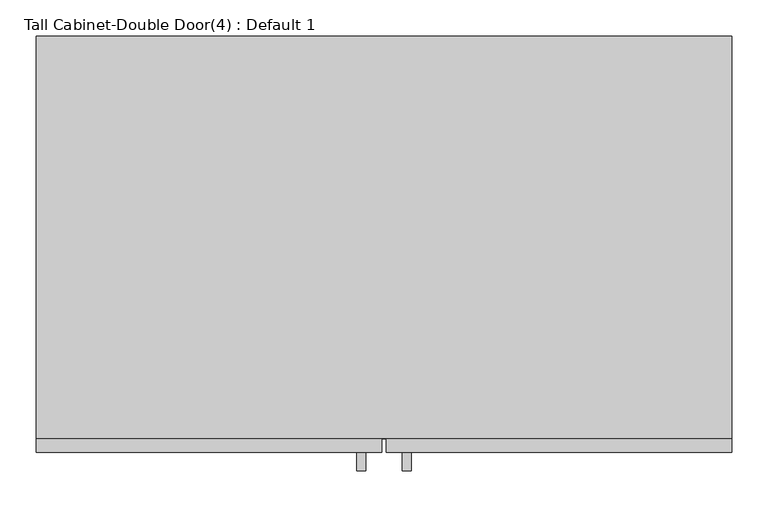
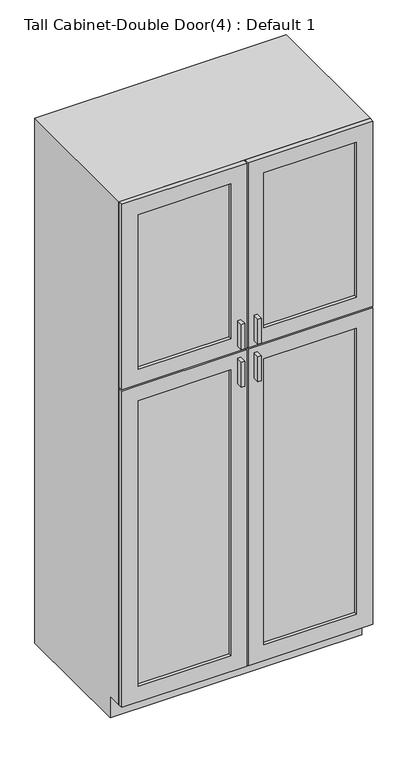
"""IFC4 building model written with IfcOpenShell, lengths in millimetres: furniture geometry, Tall Cabinet-Double Door(4) : Default 1."""

import ifcopenshell
import ifcopenshell.guid

model = None  # the IFC model being written
_history = None  # IfcOwnerHistory: only IFC2X3 demands one
_inside = {}  # id of a spatial element -> (the spatial element, [elements in it])
_under = {}  # id of a project, library or spatial element -> (it, [spatial elements below it])
_declared = {}  # id of a project -> (the project, [libraries it declares])
_typed = {}  # id of a type object -> (the type object, [elements of that type])
_made_of = {}  # id of a material, layer set ... -> (it, [elements and type objects made of it])


def new_model(schema):
    """Start an empty IFC model of exactly this schema.

    Asked for "IFC4X3", IfcOpenShell would pick the latest addendum, in which some entities
    have other attributes; the version numbers below select the first issue.
    IFC2X3 requires an IfcOwnerHistory on every rooted entity: one is made here for all.
    """
    global model, _history
    if schema == "IFC4X3":
        model = ifcopenshell.file(schema_version=(4, 3, 0, 0))
    else:
        model = ifcopenshell.file(schema=schema)
    _inside.clear()
    _under.clear()
    _declared.clear()
    _typed.clear()
    _made_of.clear()
    _history = None
    if model.schema == "IFC2X3":
        org = make("IfcOrganization", Name="unknown")
        user = make(
            "IfcPersonAndOrganization",
            ThePerson=make("IfcPerson", FamilyName="unknown"),
            TheOrganization=org,
        )
        app = make(
            "IfcApplication",
            ApplicationDeveloper=org,
            Version="unknown",
            ApplicationFullName="unknown",
            ApplicationIdentifier="unknown",
        )
        _history = make(
            "IfcOwnerHistory",
            OwningUser=user,
            OwningApplication=app,
            ChangeAction="ADDED",
            CreationDate=0,
        )
    return model


def make(cls, **values):
    """One entity of the class cls with the attributes given. An attribute that is None is left unset."""
    return model.create_entity(
        cls, **{name: value for name, value in values.items() if value is not None}
    )


def rooted(cls, **values):
    """An entity with a GlobalId (a new one), such as an element, a storey or a relation."""
    return make(cls, GlobalId=ifcopenshell.guid.new(), OwnerHistory=_history, **values)


def si_unit(unit_type, name, prefix=None):
    """IfcSIUnit, for example si_unit("LENGTHUNIT", "METRE", prefix="MILLI")."""
    return make("IfcSIUnit", UnitType=unit_type, Prefix=prefix, Name=name)


def assignment(units):
    """IfcUnitAssignment: the units of a project."""
    return None if units is None else make("IfcUnitAssignment", Units=units)


def point(xyz):
    """IfcCartesianPoint."""
    return None if xyz is None else make("IfcCartesianPoint", Coordinates=xyz)


def direction(xyz):
    """IfcDirection."""
    return None if xyz is None else make("IfcDirection", DirectionRatios=xyz)


def frame(location, z_axis=None, x_axis=None):
    """IfcAxis2Placement3D, a coordinate frame: its origin and axes. An axis left out is left unset."""
    return make(
        "IfcAxis2Placement3D",
        Location=point(location),
        Axis=direction(z_axis),
        RefDirection=direction(x_axis),
    )


def origin():
    """The frame at (0, 0, 0) with its axes left unset."""
    return frame((0.0, 0.0, 0.0))


def place(relative_to, where):
    """IfcLocalPlacement: puts the frame where relative to a parent placement (None: the world)."""
    return make(
        "IfcLocalPlacement", PlacementRelTo=relative_to, RelativePlacement=where
    )


def context(
    kind, dimensions, precision=None, world=None, true_north=None, identifier=None
):
    """IfcGeometricRepresentationContext, for example the 3D "Model" context."""
    return make(
        "IfcGeometricRepresentationContext",
        ContextIdentifier=identifier,
        ContextType=kind,
        CoordinateSpaceDimension=dimensions,
        Precision=precision,
        WorldCoordinateSystem=world,
        TrueNorth=true_north,
    )


def project(units=None, contexts=None):
    """IfcProject with its units and contexts."""
    return rooted(
        "IfcProject",
        Name="project",
        RepresentationContexts=contexts,
        UnitsInContext=assignment(units),
    )


def spatial(cls, under=None, at=None, **own):
    """A site, building, storey or space (cls), placed at a placement, below another one or the project."""
    s = rooted(cls, ObjectPlacement=at, **own)
    if under is not None:
        _under.setdefault(under.id(), (under, []))[1].append(s)
    return s


def polyline(points):
    """IfcPolyline through the points."""
    return make("IfcPolyline", Points=[point(p) for p in points])


def outline(outer, holes=None, kind="AREA"):
    """IfcArbitraryClosedProfileDef: a profile drawn as a closed curve; with holes, ...WithVoids."""
    if holes is None:
        return make("IfcArbitraryClosedProfileDef", ProfileType=kind, OuterCurve=outer)
    return make(
        "IfcArbitraryProfileDefWithVoids",
        ProfileType=kind,
        OuterCurve=outer,
        InnerCurves=holes,
    )


def extrude(swept, where, along, depth):
    """IfcExtrudedAreaSolid: the profile swept, set in the frame where, extruded along a direction by depth."""
    return make(
        "IfcExtrudedAreaSolid",
        SweptArea=swept,
        Position=where,
        ExtrudedDirection=direction(along),
        Depth=depth,
    )


def faces_of(points, faces, orient=None, outer=None):
    """IfcFace entities. A face is a list of loops; a loop is a list of indices into points, from 0.

    orient and outer hold one flag for each loop. By default every Orientation is true, the
    first loop of a face is its IfcFaceOuterBound and the others are IfcFaceBound.
    """
    made = []
    for i, loops in enumerate(faces):
        bounds = []
        for j, loop in enumerate(loops):
            is_outer = j == 0 if outer is None else outer[i][j]
            bounds.append(
                make(
                    "IfcFaceOuterBound" if is_outer else "IfcFaceBound",
                    Bound=make("IfcPolyLoop", Polygon=[points[k] for k in loop]),
                    Orientation=True if orient is None else orient[i][j],
                )
            )
        made.append(make("IfcFace", Bounds=bounds))
    return made


def faceted_brep(points, faces, orient=None, outer=None, voids=None):
    """IfcFacetedBrep: a solid bounded by flat faces; with voids (closed shells), ...WithVoids."""
    shared = [point(p) for p in points]
    hull = make("IfcClosedShell", CfsFaces=faces_of(shared, faces, orient, outer))
    if voids is None:
        return make("IfcFacetedBrep", Outer=hull)
    return make(
        "IfcFacetedBrepWithVoids",
        Outer=hull,
        Voids=[
            make(cls, CfsFaces=faces_of(shared, fs, o, b)) for cls, fs, o, b in voids
        ],
    )


def shape(context_of_items, identifier, shape_type, items):
    """IfcShapeRepresentation: the items that make up one representation, for example the "Body"."""
    return make(
        "IfcShapeRepresentation",
        ContextOfItems=context_of_items,
        RepresentationIdentifier=identifier,
        RepresentationType=shape_type,
        Items=items,
    )


def source(mapping_origin, context_of_items, identifier, shape_type, items):
    """IfcRepresentationMap: a shape defined once, which mapped items show again and again."""
    return make(
        "IfcRepresentationMap",
        MappingOrigin=mapping_origin,
        MappedRepresentation=shape(context_of_items, identifier, shape_type, items),
    )


def transform(
    local_origin,
    x_axis=None,
    y_axis=None,
    z_axis=None,
    scale=None,
    scale2=None,
    scale3=None,
    uniform=True,
):
    """IfcCartesianTransformationOperator3D, or its non-uniform kind. x_axis, y_axis, z_axis: its Axis1, 2, 3."""
    if uniform:
        return make(
            "IfcCartesianTransformationOperator3D",
            Axis1=direction(x_axis),
            Axis2=direction(y_axis),
            LocalOrigin=point(local_origin),
            Scale=scale,
            Axis3=direction(z_axis),
        )
    return make(
        "IfcCartesianTransformationOperator3DnonUniform",
        Axis1=direction(x_axis),
        Axis2=direction(y_axis),
        LocalOrigin=point(local_origin),
        Scale=scale,
        Axis3=direction(z_axis),
        Scale2=scale2,
        Scale3=scale3,
    )


def mapped(mapping_source, mapping_target):
    """IfcMappedItem: shows the shape of a source again, moved by a transform."""
    return make(
        "IfcMappedItem", MappingSource=mapping_source, MappingTarget=mapping_target
    )


def made_of(thing, what):
    """Note that an element or type object is made of a material, layer set ...; save() writes the relation."""
    if what is not None:
        _made_of.setdefault(what.id(), (what, []))[1].append(thing)
    return thing


def element(
    cls,
    number,
    at=None,
    inside=None,
    cuts=None,
    type_object=None,
    material=None,
    context=None,
    identifier="Body",
    shape_type=None,
    held_by="IfcProductDefinitionShape",
    body=None,
    shapes=None,
    **own,
):
    """One element of the class cls, such as IfcWall. Its Tag is "e" and its number.

    at: its placement. inside: the storey or other place that contains it. cuts: it is an
    opening in that element (IfcRelVoidsElement). A single representation is given by context,
    identifier, shape_type and body (its items); several are given by shapes. held_by: the class
    of the entity that holds the representations. save() writes the other relations.
    """
    e = rooted(cls, Tag="e%d" % number, ObjectPlacement=at, **own)
    if body is not None:
        shapes = [shape(context, identifier, shape_type, body)]
    if shapes is not None:
        e.Representation = make(held_by, Representations=shapes)
    if inside is not None:
        _inside.setdefault(inside.id(), (inside, []))[1].append(e)
    if cuts is not None:
        rooted(
            "IfcRelVoidsElement", RelatingBuildingElement=cuts, RelatedOpeningElement=e
        )
    if type_object is not None:
        _typed.setdefault(type_object.id(), (type_object, []))[1].append(e)
    return made_of(e, material)


def aggregate(whole, parts):
    """IfcRelAggregates: a whole, such as a stair, and the parts it consists of."""
    return rooted("IfcRelAggregates", RelatingObject=whole, RelatedObjects=parts)


def save(model, path):
    """Write the relations noted so far, then the file.

    IfcRelAggregates (storeys below a building ...), IfcRelContainedInSpatialStructure (elements
    in a storey), IfcRelDefinesByType, IfcRelAssociatesMaterial and IfcRelDeclares: one each for
    every whole, place, type object, material and project.
    """
    for whole, parts in _under.values():
        aggregate(whole, parts)
    for where, things in _inside.values():
        rooted(
            "IfcRelContainedInSpatialStructure",
            RelatedElements=things,
            RelatingStructure=where,
        )
    for kind, things in _typed.values():
        rooted("IfcRelDefinesByType", RelatedObjects=things, RelatingType=kind)
    for what, things in _made_of.values():
        rooted("IfcRelAssociatesMaterial", RelatedObjects=things, RelatingMaterial=what)
    for by, libraries in _declared.values():
        rooted("IfcRelDeclares", RelatingContext=by, RelatedDefinitions=libraries)
    model.write(path)


def tall_cabinet_double_door_4_default_1_8bce80c1(model_context):
    return source(origin(), model_context, "Body", "SolidModel", [
        faceted_brep([(501.3377049, -558.8, 90.4875), (501.3377049, -558.8, 2133.6), (-463.8622951, -558.8, 2133.6), (-463.8622951, -558.8, 90.4875), (482.2877049, -558.8, 2114.55), (482.2877049, -558.8, 109.5375), (-444.8122951, -558.8, 109.5375), (-444.8122951, -558.8, 2114.55), (-463.8622951, 0.0, 2133.6), (501.3377049, 0.0, 2133.6), (501.3377049, 0.0, 1.5875), (-463.8622951, 0.0, 1.5875), (482.2877049, 0.0, 2114.55), (-444.8122951, 0.0, 2114.55), (-444.8122951, 0.0, 109.5375), (482.2877049, 0.0, 109.5375), (501.3377049, -501.65, 90.4875), (501.3377049, -501.65, 1.5875), (-463.8622951, -501.65, 1.5875), (-463.8622951, -501.65, 90.4875)], [[[0, 1, 2, 3], [4, 5, 6, 7]], [[8, 9, 10, 11], [12, 13, 14, 15]], [[1, 0, 16, 17, 10, 9]], [[2, 1, 9, 8]], [[3, 2, 8, 11, 18, 19]], [[0, 3, 19, 16]], [[5, 4, 12, 15]], [[6, 5, 15, 14]], [[7, 6, 14, 13]], [[4, 7, 13, 12]], [[10, 17, 18, 11]], [[18, 17, 16, 19]]]),
        extrude(outline(polyline([(-6.6622951, -603.25), (-19.1945267, -603.25), (-19.1945267, -577.85), (-6.6622951, -577.85), (-6.6622951, -603.25)])), frame((0.0, 0.0, 1403.5480367), z_axis=(0.0, 0.0, 1.0), x_axis=(1.0, 0.0, 0.0)), (0.0, 0.0, 1.0), 101.6),
        extrude(outline(polyline([(56.6699365, -603.25), (44.1377049, -603.25), (44.1377049, -577.85), (56.6699365, -577.85), (56.6699365, -603.25)])), frame((0.0, 0.0, 1403.5480367), z_axis=(0.0, 0.0, 1.0), x_axis=(1.0, 0.0, 0.0)), (0.0, 0.0, 1.0), 101.6),
        extrude(outline(polyline([(-6.6622951, -603.25), (-19.1945267, -603.25), (-19.1945267, -577.85), (-6.6622951, -577.85), (-6.6622951, -603.25)])), frame((0.0, 0.0, 1251.1480367), z_axis=(0.0, 0.0, 1.0), x_axis=(1.0, 0.0, 0.0)), (0.0, 0.0, 1.0), 101.6),
        extrude(outline(polyline([(56.6699365, -603.25), (44.1377049, -603.25), (44.1377049, -577.85), (56.6699365, -577.85), (56.6699365, -603.25)])), frame((0.0, 0.0, 1251.1480367), z_axis=(0.0, 0.0, 1.0), x_axis=(1.0, 0.0, 0.0)), (0.0, 0.0, 1.0), 101.6),
        extrude(outline(polyline([(-44.7622951, -565.15), (-400.3622951, -565.15), (-400.3622951, -558.8), (-44.7622951, -558.8), (-44.7622951, -565.15)])), frame((0.0, 0.0, 1441.6480367), z_axis=(0.0, 0.0, 1.0), x_axis=(1.0, 0.0, 0.0)), (0.0, 0.0, 1.0), 628.4519633),
        extrude(outline(polyline([(437.8377049, -565.15), (82.2377049, -565.15), (82.2377049, -558.8), (437.8377049, -558.8), (437.8377049, -565.15)])), frame((0.0, 0.0, 1441.6480367), z_axis=(0.0, 0.0, 1.0), x_axis=(1.0, 0.0, 0.0)), (0.0, 0.0, 1.0), 628.4519633),
        extrude(outline(polyline([(-44.7622951, -565.15), (-400.3622951, -565.15), (-400.3622951, -558.8), (-44.7622951, -558.8), (-44.7622951, -565.15)])), frame((0.0, 0.0, 153.9875), z_axis=(0.0, 0.0, 1.0), x_axis=(1.0, 0.0, 0.0)), (0.0, 0.0, 1.0), 1160.6605367),
        extrude(outline(polyline([(437.8377049, -565.15), (82.2377049, -565.15), (82.2377049, -558.8), (437.8377049, -558.8), (437.8377049, -565.15)])), frame((0.0, 0.0, 153.9875), z_axis=(0.0, 0.0, 1.0), x_axis=(1.0, 0.0, 0.0)), (0.0, 0.0, 1.0), 1160.6605367),
        extrude(outline(polyline([(2133.6, 15.5627049), (2133.6, -463.8622951), (1381.3230367, -463.8622951), (1381.3230367, 15.5627049), (2133.6, 15.5627049)]), holes=[polyline([(2070.1, -44.7622951), (1441.6480367, -44.7622951), (1441.6480367, -400.3622951), (2070.1, -400.3622951), (2070.1, -44.7622951)])]), frame((0.0, -577.85, 0.0), z_axis=(0.0, 1.0, 0.0), x_axis=(0.0, 0.0, 1.0)), (0.0, 0.0, 1.0), 19.05),
        extrude(outline(polyline([(2133.6, 21.9127049), (1381.3230367, 21.9127049), (1381.3230367, 501.3377049), (2133.6, 501.3377049), (2133.6, 21.9127049)]), holes=[polyline([(2070.1, 437.8377049), (1441.6480367, 437.8377049), (1441.6480367, 82.2377049), (2070.1, 82.2377049), (2070.1, 437.8377049)])]), frame((0.0, -577.85, 0.0), z_axis=(0.0, 1.0, 0.0), x_axis=(0.0, 0.0, 1.0)), (0.0, 0.0, 1.0), 19.05),
        extrude(outline(polyline([(90.4875, 21.9127049), (90.4875, 501.3377049), (1374.9730367, 501.3377049), (1374.9730367, 21.9127049), (90.4875, 21.9127049)]), holes=[polyline([(1314.6480367, 82.2377049), (1314.6480367, 437.8377049), (153.9875, 437.8377049), (153.9875, 82.2377049), (1314.6480367, 82.2377049)])]), frame((0.0, -577.85, 0.0), z_axis=(0.0, 1.0, 0.0), x_axis=(0.0, 0.0, 1.0)), (0.0, 0.0, 1.0), 19.05),
        extrude(outline(polyline([(90.4875, 15.5627049), (1374.9730367, 15.5627049), (1374.9730367, -463.8622951), (90.4875, -463.8622951), (90.4875, 15.5627049)]), holes=[polyline([(1314.6480367, -44.7622951), (153.9875, -44.7622951), (153.9875, -400.3622951), (1314.6480367, -400.3622951), (1314.6480367, -44.7622951)])]), frame((0.0, -577.85, 0.0), z_axis=(0.0, 1.0, 0.0), x_axis=(0.0, 0.0, 1.0)), (0.0, 0.0, 1.0), 19.05),
        extrude(outline(polyline([(482.2877049, -19.05), (-444.8122951, -19.05), (-444.8122951, 0.0), (482.2877049, 0.0), (482.2877049, -19.05)])), frame((0.0, 0.0, 109.5375), z_axis=(0.0, 0.0, 1.0), x_axis=(1.0, 0.0, 0.0)), (0.0, 0.0, 1.0), 2005.0125),
    ])


if __name__ == "__main__":
    model = new_model("IFC4")
    model_context = context("Model", 3, world=origin())
    ifc_project = project(units=[si_unit("LENGTHUNIT", "METRE", prefix="MILLI")], contexts=[model_context])
    site = spatial("IfcSite", under=ifc_project)
    building = spatial("IfcBuilding", under=site)
    placement = place(None, origin())
    tall_cabinet_double_door_4_default_1_shape = tall_cabinet_double_door_4_default_1_8bce80c1(model_context)
    element("IfcFurniture", 1, ObjectType="Tall Cabinet-Double Door(4) : Default 1", at=placement, inside=building, context=model_context, shape_type="MappedRepresentation", body=[
        mapped(tall_cabinet_double_door_4_default_1_shape, transform((0.0, 0.0, 0.0), x_axis=(1.0, 0.0, 0.0), y_axis=(0.0, 1.0, 0.0), z_axis=(0.0, 0.0, 1.0))),
    ])
    save(model, "model.ifc")
